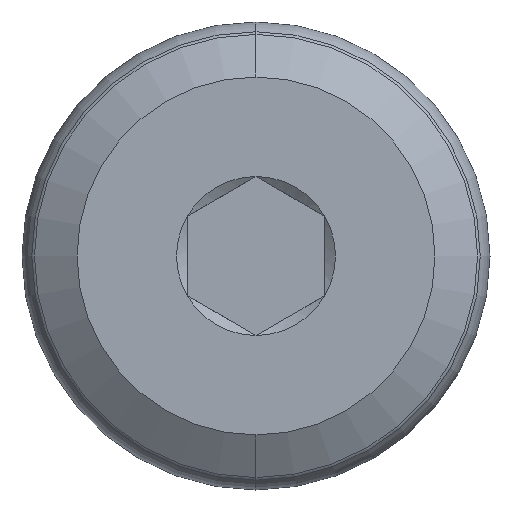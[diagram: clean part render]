
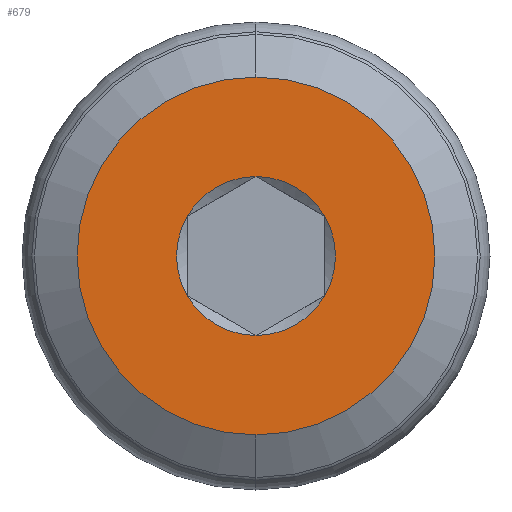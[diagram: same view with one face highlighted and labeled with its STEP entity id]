
A CAD part, left-side view. The second image highlights one B-rep face of the part: STEP entity #679.
In plain terms, the highlighted planar face has unit normal (-1, 0, 0).
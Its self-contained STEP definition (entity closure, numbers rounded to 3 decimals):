
#2 = ORIENTED_EDGE ( 'NONE', *, *, #623, .T. ) ;
#10 = CARTESIAN_POINT ( 'NONE',  ( 0., 0., 0. ) ) ;
#28 = ORIENTED_EDGE ( 'NONE', *, *, #66, .F. ) ;
#35 = CARTESIAN_POINT ( 'NONE',  ( 0., 0., 3.25 ) ) ;
#47 = CIRCLE ( 'NONE', #486, 1.443 ) ;
#54 = EDGE_CURVE ( 'NONE', #269, #218, #47, .T. ) ;
#66 = EDGE_CURVE ( 'NONE', #303, #624, #589, .T. ) ;
#77 = EDGE_CURVE ( 'NONE', #624, #303, #450, .T. ) ;
#86 = AXIS2_PLACEMENT_3D ( 'NONE', #365, #428, #715 ) ;
#87 = CARTESIAN_POINT ( 'NONE',  ( 0., 0., 0. ) ) ;
#90 = VERTEX_POINT ( 'NONE', #437 ) ;
#92 = DIRECTION ( 'NONE',  ( 1., 0., 0. ) ) ;
#106 = FACE_BOUND ( 'NONE', #444, .T. ) ;
#107 = CARTESIAN_POINT ( 'NONE',  ( 0., 0., 0. ) ) ;
#110 = AXIS2_PLACEMENT_3D ( 'NONE', #87, #741, #446 ) ;
#132 = ORIENTED_EDGE ( 'NONE', *, *, #376, .T. ) ;
#150 = CARTESIAN_POINT ( 'NONE',  ( 0., 1.25, 0.722 ) ) ;
#153 = DIRECTION ( 'NONE',  ( 1., 0., 0. ) ) ;
#215 = CARTESIAN_POINT ( 'NONE',  ( 0., 0., 1.443 ) ) ;
#218 = VERTEX_POINT ( 'NONE', #215 ) ;
#244 = ORIENTED_EDGE ( 'NONE', *, *, #280, .T. ) ;
#248 = AXIS2_PLACEMENT_3D ( 'NONE', #10, #253, #498 ) ;
#249 = CIRCLE ( 'NONE', #86, 1.443 ) ;
#251 = CIRCLE ( 'NONE', #622, 1.443 ) ;
#253 = DIRECTION ( 'NONE',  ( 1., 0., 0. ) ) ;
#255 = CARTESIAN_POINT ( 'NONE',  ( 0., -1.25, 0.722 ) ) ;
#256 = EDGE_CURVE ( 'NONE', #541, #785, #345, .T. ) ;
#269 = VERTEX_POINT ( 'NONE', #150 ) ;
#271 = DIRECTION ( 'NONE',  ( 0., 0., -1. ) ) ;
#274 = PLANE ( 'NONE',  #302 ) ;
#280 = EDGE_CURVE ( 'NONE', #292, #90, #619, .T. ) ;
#282 = ORIENTED_EDGE ( 'NONE', *, *, #54, .T. ) ;
#291 = CARTESIAN_POINT ( 'NONE',  ( 0., 0., -3.25 ) ) ;
#292 = VERTEX_POINT ( 'NONE', #298 ) ;
#298 = CARTESIAN_POINT ( 'NONE',  ( 0., 0., -1.443 ) ) ;
#302 = AXIS2_PLACEMENT_3D ( 'NONE', #343, #701, #351 ) ;
#303 = VERTEX_POINT ( 'NONE', #291 ) ;
#328 = DIRECTION ( 'NONE',  ( 1., 0., 0. ) ) ;
#331 = AXIS2_PLACEMENT_3D ( 'NONE', #107, #92, #356 ) ;
#334 = CIRCLE ( 'NONE', #607, 1.443 ) ;
#339 = DIRECTION ( 'NONE',  ( 1., 0., 0. ) ) ;
#343 = CARTESIAN_POINT ( 'NONE',  ( 0., 3.25, 0. ) ) ;
#345 = CIRCLE ( 'NONE', #331, 1.443 ) ;
#351 = DIRECTION ( 'NONE',  ( 0., 0., 1. ) ) ;
#356 = DIRECTION ( 'NONE',  ( 0., 0., -1. ) ) ;
#365 = CARTESIAN_POINT ( 'NONE',  ( 0., 0., 0. ) ) ;
#376 = EDGE_CURVE ( 'NONE', #90, #269, #249, .T. ) ;
#377 = ORIENTED_EDGE ( 'NONE', *, *, #256, .T. ) ;
#399 = CARTESIAN_POINT ( 'NONE',  ( 0., 0., 0. ) ) ;
#403 = CARTESIAN_POINT ( 'NONE',  ( 0., 0., 0. ) ) ;
#410 = FACE_OUTER_BOUND ( 'NONE', #545, .T. ) ;
#428 = DIRECTION ( 'NONE',  ( 1., 0., 0. ) ) ;
#432 = ORIENTED_EDGE ( 'NONE', *, *, #644, .T. ) ;
#437 = CARTESIAN_POINT ( 'NONE',  ( 0., 1.25, -0.722 ) ) ;
#443 = DIRECTION ( 'NONE',  ( 0., 0., -1. ) ) ;
#444 = EDGE_LOOP ( 'NONE', ( #282, #432, #377, #2, #244, #132 ) ) ;
#446 = DIRECTION ( 'NONE',  ( 0., 0., -1. ) ) ;
#450 = CIRCLE ( 'NONE', #110, 3.25 ) ;
#453 = AXIS2_PLACEMENT_3D ( 'NONE', #399, #339, #271 ) ;
#461 = DIRECTION ( 'NONE',  ( 0., 0., -1. ) ) ;
#486 = AXIS2_PLACEMENT_3D ( 'NONE', #756, #328, #443 ) ;
#498 = DIRECTION ( 'NONE',  ( 0., 0., -1. ) ) ;
#516 = ORIENTED_EDGE ( 'NONE', *, *, #77, .F. ) ;
#518 = CARTESIAN_POINT ( 'NONE',  ( 0., 0., 0. ) ) ;
#541 = VERTEX_POINT ( 'NONE', #255 ) ;
#545 = EDGE_LOOP ( 'NONE', ( #28, #516 ) ) ;
#553 = CARTESIAN_POINT ( 'NONE',  ( 0., -1.25, -0.722 ) ) ;
#589 = CIRCLE ( 'NONE', #248, 3.25 ) ;
#607 = AXIS2_PLACEMENT_3D ( 'NONE', #403, #760, #705 ) ;
#619 = CIRCLE ( 'NONE', #453, 1.443 ) ;
#622 = AXIS2_PLACEMENT_3D ( 'NONE', #518, #153, #461 ) ;
#623 = EDGE_CURVE ( 'NONE', #785, #292, #251, .T. ) ;
#624 = VERTEX_POINT ( 'NONE', #35 ) ;
#644 = EDGE_CURVE ( 'NONE', #218, #541, #334, .T. ) ;
#679 = ADVANCED_FACE ( 'NONE', ( #106, #410 ), #274, .T. ) ;
#701 = DIRECTION ( 'NONE',  ( -1., 0., 0. ) ) ;
#705 = DIRECTION ( 'NONE',  ( 0., 0., -1. ) ) ;
#715 = DIRECTION ( 'NONE',  ( 0., 0., -1. ) ) ;
#741 = DIRECTION ( 'NONE',  ( 1., 0., 0. ) ) ;
#756 = CARTESIAN_POINT ( 'NONE',  ( 0., 0., 0. ) ) ;
#760 = DIRECTION ( 'NONE',  ( 1., 0., 0. ) ) ;
#785 = VERTEX_POINT ( 'NONE', #553 ) ;
